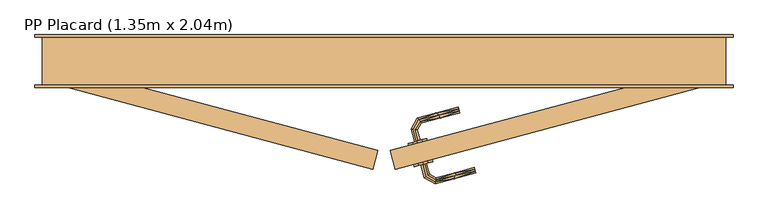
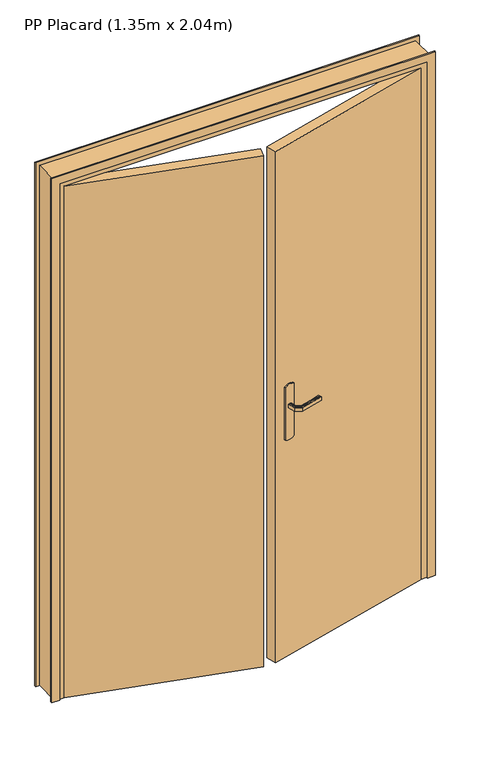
"""IFC4 building model written with IfcOpenShell, lengths in millimetres: door geometry, PP Placard (1.35m x 2.04m)."""

import ifcopenshell
import ifcopenshell.guid

model = None  # the IFC model being written
_history = None  # IfcOwnerHistory: only IFC2X3 demands one
_inside = {}  # id of a spatial element -> (the spatial element, [elements in it])
_under = {}  # id of a project, library or spatial element -> (it, [spatial elements below it])
_declared = {}  # id of a project -> (the project, [libraries it declares])
_typed = {}  # id of a type object -> (the type object, [elements of that type])
_made_of = {}  # id of a material, layer set ... -> (it, [elements and type objects made of it])


def new_model(schema):
    """Start an empty IFC model of exactly this schema.

    Asked for "IFC4X3", IfcOpenShell would pick the latest addendum, in which some entities
    have other attributes; the version numbers below select the first issue.
    IFC2X3 requires an IfcOwnerHistory on every rooted entity: one is made here for all.
    """
    global model, _history
    if schema == "IFC4X3":
        model = ifcopenshell.file(schema_version=(4, 3, 0, 0))
    else:
        model = ifcopenshell.file(schema=schema)
    _inside.clear()
    _under.clear()
    _declared.clear()
    _typed.clear()
    _made_of.clear()
    _history = None
    if model.schema == "IFC2X3":
        org = make("IfcOrganization", Name="unknown")
        user = make(
            "IfcPersonAndOrganization",
            ThePerson=make("IfcPerson", FamilyName="unknown"),
            TheOrganization=org,
        )
        app = make(
            "IfcApplication",
            ApplicationDeveloper=org,
            Version="unknown",
            ApplicationFullName="unknown",
            ApplicationIdentifier="unknown",
        )
        _history = make(
            "IfcOwnerHistory",
            OwningUser=user,
            OwningApplication=app,
            ChangeAction="ADDED",
            CreationDate=0,
        )
    return model


def make(cls, **values):
    """One entity of the class cls with the attributes given. An attribute that is None is left unset."""
    return model.create_entity(
        cls, **{name: value for name, value in values.items() if value is not None}
    )


def rooted(cls, **values):
    """An entity with a GlobalId (a new one), such as an element, a storey or a relation."""
    return make(cls, GlobalId=ifcopenshell.guid.new(), OwnerHistory=_history, **values)


def si_unit(unit_type, name, prefix=None):
    """IfcSIUnit, for example si_unit("LENGTHUNIT", "METRE", prefix="MILLI")."""
    return make("IfcSIUnit", UnitType=unit_type, Prefix=prefix, Name=name)


def assignment(units):
    """IfcUnitAssignment: the units of a project."""
    return None if units is None else make("IfcUnitAssignment", Units=units)


def point(xyz):
    """IfcCartesianPoint."""
    return None if xyz is None else make("IfcCartesianPoint", Coordinates=xyz)


def direction(xyz):
    """IfcDirection."""
    return None if xyz is None else make("IfcDirection", DirectionRatios=xyz)


def frame(location, z_axis=None, x_axis=None):
    """IfcAxis2Placement3D, a coordinate frame: its origin and axes. An axis left out is left unset."""
    return make(
        "IfcAxis2Placement3D",
        Location=point(location),
        Axis=direction(z_axis),
        RefDirection=direction(x_axis),
    )


def origin():
    """The frame at (0, 0, 0) with its axes left unset."""
    return frame((0.0, 0.0, 0.0))


def origin_with_axes():
    """The frame at (0, 0, 0) with the z axis (0, 0, 1) and the x axis (1, 0, 0) written out."""
    return frame((0.0, 0.0, 0.0), z_axis=(0.0, 0.0, 1.0), x_axis=(1.0, 0.0, 0.0))


def place(relative_to, where):
    """IfcLocalPlacement: puts the frame where relative to a parent placement (None: the world)."""
    return make(
        "IfcLocalPlacement", PlacementRelTo=relative_to, RelativePlacement=where
    )


def context(
    kind, dimensions, precision=None, world=None, true_north=None, identifier=None
):
    """IfcGeometricRepresentationContext, for example the 3D "Model" context."""
    return make(
        "IfcGeometricRepresentationContext",
        ContextIdentifier=identifier,
        ContextType=kind,
        CoordinateSpaceDimension=dimensions,
        Precision=precision,
        WorldCoordinateSystem=world,
        TrueNorth=true_north,
    )


def project(units=None, contexts=None):
    """IfcProject with its units and contexts."""
    return rooted(
        "IfcProject",
        Name="project",
        RepresentationContexts=contexts,
        UnitsInContext=assignment(units),
    )


def spatial(cls, under=None, at=None, **own):
    """A site, building, storey or space (cls), placed at a placement, below another one or the project."""
    s = rooted(cls, ObjectPlacement=at, **own)
    if under is not None:
        _under.setdefault(under.id(), (under, []))[1].append(s)
    return s


def polyline(points):
    """IfcPolyline through the points."""
    return make("IfcPolyline", Points=[point(p) for p in points])


def outline(outer, holes=None, kind="AREA"):
    """IfcArbitraryClosedProfileDef: a profile drawn as a closed curve; with holes, ...WithVoids."""
    if holes is None:
        return make("IfcArbitraryClosedProfileDef", ProfileType=kind, OuterCurve=outer)
    return make(
        "IfcArbitraryProfileDefWithVoids",
        ProfileType=kind,
        OuterCurve=outer,
        InnerCurves=holes,
    )


def extrude(swept, where, along, depth):
    """IfcExtrudedAreaSolid: the profile swept, set in the frame where, extruded along a direction by depth."""
    return make(
        "IfcExtrudedAreaSolid",
        SweptArea=swept,
        Position=where,
        ExtrudedDirection=direction(along),
        Depth=depth,
    )


def faces_of(points, faces, orient=None, outer=None):
    """IfcFace entities. A face is a list of loops; a loop is a list of indices into points, from 0.

    orient and outer hold one flag for each loop. By default every Orientation is true, the
    first loop of a face is its IfcFaceOuterBound and the others are IfcFaceBound.
    """
    made = []
    for i, loops in enumerate(faces):
        bounds = []
        for j, loop in enumerate(loops):
            is_outer = j == 0 if outer is None else outer[i][j]
            bounds.append(
                make(
                    "IfcFaceOuterBound" if is_outer else "IfcFaceBound",
                    Bound=make("IfcPolyLoop", Polygon=[points[k] for k in loop]),
                    Orientation=True if orient is None else orient[i][j],
                )
            )
        made.append(make("IfcFace", Bounds=bounds))
    return made


def faceted_brep(points, faces, orient=None, outer=None, voids=None):
    """IfcFacetedBrep: a solid bounded by flat faces; with voids (closed shells), ...WithVoids."""
    shared = [point(p) for p in points]
    hull = make("IfcClosedShell", CfsFaces=faces_of(shared, faces, orient, outer))
    if voids is None:
        return make("IfcFacetedBrep", Outer=hull)
    return make(
        "IfcFacetedBrepWithVoids",
        Outer=hull,
        Voids=[
            make(cls, CfsFaces=faces_of(shared, fs, o, b)) for cls, fs, o, b in voids
        ],
    )


def shape(context_of_items, identifier, shape_type, items):
    """IfcShapeRepresentation: the items that make up one representation, for example the "Body"."""
    return make(
        "IfcShapeRepresentation",
        ContextOfItems=context_of_items,
        RepresentationIdentifier=identifier,
        RepresentationType=shape_type,
        Items=items,
    )


def source(mapping_origin, context_of_items, identifier, shape_type, items):
    """IfcRepresentationMap: a shape defined once, which mapped items show again and again."""
    return make(
        "IfcRepresentationMap",
        MappingOrigin=mapping_origin,
        MappedRepresentation=shape(context_of_items, identifier, shape_type, items),
    )


def transform(
    local_origin,
    x_axis=None,
    y_axis=None,
    z_axis=None,
    scale=None,
    scale2=None,
    scale3=None,
    uniform=True,
):
    """IfcCartesianTransformationOperator3D, or its non-uniform kind. x_axis, y_axis, z_axis: its Axis1, 2, 3."""
    if uniform:
        return make(
            "IfcCartesianTransformationOperator3D",
            Axis1=direction(x_axis),
            Axis2=direction(y_axis),
            LocalOrigin=point(local_origin),
            Scale=scale,
            Axis3=direction(z_axis),
        )
    return make(
        "IfcCartesianTransformationOperator3DnonUniform",
        Axis1=direction(x_axis),
        Axis2=direction(y_axis),
        LocalOrigin=point(local_origin),
        Scale=scale,
        Axis3=direction(z_axis),
        Scale2=scale2,
        Scale3=scale3,
    )


def mapped(mapping_source, mapping_target):
    """IfcMappedItem: shows the shape of a source again, moved by a transform."""
    return make(
        "IfcMappedItem", MappingSource=mapping_source, MappingTarget=mapping_target
    )


def made_of(thing, what):
    """Note that an element or type object is made of a material, layer set ...; save() writes the relation."""
    if what is not None:
        _made_of.setdefault(what.id(), (what, []))[1].append(thing)
    return thing


def element(
    cls,
    number,
    at=None,
    inside=None,
    cuts=None,
    type_object=None,
    material=None,
    context=None,
    identifier="Body",
    shape_type=None,
    held_by="IfcProductDefinitionShape",
    body=None,
    shapes=None,
    **own,
):
    """One element of the class cls, such as IfcWall. Its Tag is "e" and its number.

    at: its placement. inside: the storey or other place that contains it. cuts: it is an
    opening in that element (IfcRelVoidsElement). A single representation is given by context,
    identifier, shape_type and body (its items); several are given by shapes. held_by: the class
    of the entity that holds the representations. save() writes the other relations.
    """
    e = rooted(cls, Tag="e%d" % number, ObjectPlacement=at, **own)
    if body is not None:
        shapes = [shape(context, identifier, shape_type, body)]
    if shapes is not None:
        e.Representation = make(held_by, Representations=shapes)
    if inside is not None:
        _inside.setdefault(inside.id(), (inside, []))[1].append(e)
    if cuts is not None:
        rooted(
            "IfcRelVoidsElement", RelatingBuildingElement=cuts, RelatedOpeningElement=e
        )
    if type_object is not None:
        _typed.setdefault(type_object.id(), (type_object, []))[1].append(e)
    return made_of(e, material)


def aggregate(whole, parts):
    """IfcRelAggregates: a whole, such as a stair, and the parts it consists of."""
    return rooted("IfcRelAggregates", RelatingObject=whole, RelatedObjects=parts)


def save(model, path):
    """Write the relations noted so far, then the file.

    IfcRelAggregates (storeys below a building ...), IfcRelContainedInSpatialStructure (elements
    in a storey), IfcRelDefinesByType, IfcRelAssociatesMaterial and IfcRelDeclares: one each for
    every whole, place, type object, material and project.
    """
    for whole, parts in _under.values():
        aggregate(whole, parts)
    for where, things in _inside.values():
        rooted(
            "IfcRelContainedInSpatialStructure",
            RelatedElements=things,
            RelatingStructure=where,
        )
    for kind, things in _typed.values():
        rooted("IfcRelDefinesByType", RelatedObjects=things, RelatingType=kind)
    for what, things in _made_of.values():
        rooted("IfcRelAssociatesMaterial", RelatedObjects=things, RelatingMaterial=what)
    for by, libraries in _declared.values():
        rooted("IfcRelDeclares", RelatingContext=by, RelatedDefinitions=libraries)
    model.write(path)


def pp_placard_1_35m_x_2_04m_32e57c04(model_context):
    return source(origin(), model_context, "Body", "SolidModel", [
        extrude(outline(polyline([(0.0, -15.0), (0.0, 15.0), (2060.0, 15.0), (2060.0, 1405.0), (0.0, 1405.0), (0.0, 1435.0), (2090.0, 1435.0), (2090.0, -15.0), (0.0, -15.0)])), frame((0.0, 100.0, 0.0), z_axis=(0.0, 1.0, 0.0), x_axis=(0.0, 0.0, 1.0)), (0.0, 0.0, 1.0), 5.0),
        extrude(outline(polyline([(697.3526945, -136.0658224), (686.9999327, -174.7028554), (35.0, 0.0), (45.3527618, 38.6370331), (697.3526945, -136.0658224)])), origin_with_axes(), (0.0, 0.0, 1.0), 2040.0),
        extrude(outline(polyline([(0.0, 0.0), (3.065895, 9.9818658), (212.1249722, 29.838911), (217.015302, 20.6127508), (219.3510918, 10.4352539), (218.9731616, 0.0), (215.9072666, -9.9818657), (6.8481894, -29.8389108), (1.9578596, -20.6127507), (-0.3779302, -10.4352539), (0.0, 0.0)])), frame((790.602855, -117.8571878, 866.0039831), z_axis=(-0.25881904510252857, 0.9659258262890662, 0.0), x_axis=(-0.09133539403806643, -0.024473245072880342, 0.9955194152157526)), (0.0, 0.0, 1.0), 5.0),
        faceted_brep([(790.2934238, -164.5275277, 1007.7804408), (794.2060003, -163.479156, 1007.7804408), (798.045267, -162.4504276, 1007.0), (798.045267, -162.4504276, 993.0), (794.2060003, -163.479156, 992.2195592), (790.2934238, -164.5275277, 992.2195592), (786.4541571, -165.5562561, 993.0), (786.4541571, -165.5562561, 1007.0), (793.6107498, -192.2650235, 1007.0), (797.0239032, -189.6460188, 1007.7804408), (816.6796914, -200.9942934, 1007.7804408), (817.2519619, -196.6474671, 1007.7804408), (800.5022299, -186.9770048, 1007.7804408), (803.9153834, -184.3580001, 1007.0), (803.9153834, -184.3580001, 993.0), (800.5022299, -186.9770048, 992.2195592), (817.2519619, -196.6474671, 992.2195592), (816.6796914, -200.9942934, 992.2195592), (797.0239032, -189.6460188, 992.2195592), (793.6107498, -192.2650235, 993.0), (816.1181434, -205.2596733, 1007.0), (817.8135098, -192.3820871, 1007.0), (817.8135098, -192.3820871, 993.0), (816.1181434, -205.2596733, 993.0), (900.7732647, -182.576402, 993.0), (899.7445363, -178.7371353, 992.2195592), (898.6961646, -174.8245587, 992.2195592), (897.6674362, -170.985292, 993.0), (897.6674362, -170.985292, 1007.0), (898.6961646, -174.8245587, 1007.7804408), (899.7445363, -178.7371353, 1007.7804408), (900.7732647, -182.576402, 1007.0), (854.6880323, -194.9249028, 1007.0), (858.4982491, -187.6923012, 1007.8786868), (857.740473, -181.6836896, 1007.0), (857.740473, -181.6836896, 993.0), (858.498249, -187.6923013, 992.1213132), (854.6880352, -194.924902, 993.0)], [[[0, 1, 2, 3, 4, 5, 6, 7]], [[8, 9, 0, 7]], [[9, 10, 11, 12, 1, 0]], [[12, 13, 2, 1]], [[3, 2, 13, 14]], [[14, 15, 4, 3]], [[15, 16, 17, 18, 5, 4]], [[18, 19, 6, 5]], [[7, 6, 19, 8]], [[20, 10, 9, 8]], [[11, 21, 13, 12]], [[14, 13, 21, 22]], [[22, 16, 15, 14]], [[17, 23, 19, 18]], [[8, 19, 23, 20]], [[24, 25, 26, 27, 28, 29, 30, 31]], [[32, 30, 33]], [[31, 30, 32]], [[10, 20, 32]], [[33, 34, 11]], [[21, 11, 34]], [[34, 29, 28]], [[30, 29, 33]], [[29, 34, 33]], [[10, 32, 33]], [[10, 33, 11]], [[22, 21, 34, 28, 27, 35]], [[35, 26, 36]], [[37, 36, 25]], [[22, 35, 16]], [[35, 27, 26]], [[24, 37, 25]], [[23, 17, 37]], [[37, 17, 36]], [[17, 16, 36]], [[16, 35, 36]], [[25, 36, 26]], [[20, 23, 37, 24, 31, 32]]]),
        faceted_brep([(0.0, 0.0, 0.0), (0.0, 100.0, 0.0), (50.0, 100.0, 0.0), (50.0, 40.0, 0.0), (35.0, 40.0, 0.0), (35.0, 0.0, 0.0), (0.0, 0.0, 2075.0), (0.0, 100.0, 2075.0), (1420.0, 100.0, 2075.0), (1420.0, 100.0, 0.0), (1370.0, 100.0, 0.0), (1370.0, 100.0, 2025.0), (50.0, 100.0, 2025.0), (50.0, 40.0, 2025.0), (1370.0, 40.0, 2025.0), (1370.0, 40.0, 0.0), (1385.0, 40.0, 0.0), (1385.0, 40.0, 2040.0), (35.0, 40.0, 2040.0), (35.0, 0.0, 2040.0), (1385.0, 0.0, 2040.0), (1385.0, 0.0, 0.0), (1420.0, 0.0, 0.0), (1420.0, 0.0, 2075.0)], [[[0, 1, 2, 3, 4, 5]], [[1, 0, 6, 7]], [[2, 1, 7, 8, 9, 10, 11, 12]], [[3, 2, 12, 13]], [[4, 3, 13, 14, 15, 16, 17, 18]], [[5, 4, 18, 19]], [[0, 5, 19, 20, 21, 22, 23, 6]], [[8, 23, 22, 9]], [[22, 21, 16, 15, 10, 9]], [[14, 11, 10, 15]], [[20, 17, 16, 21]], [[7, 6, 23, 8]], [[13, 12, 11, 14]], [[19, 18, 17, 20]]]),
        extrude(outline(polyline([(0.0, 0.0), (3.0658951, 9.9818657), (212.1249723, 29.8389108), (217.015302, 20.6127508), (219.3510918, 10.4352539), (218.9731616, 0.0), (215.9072666, -9.9818658), (6.8481894, -29.838911), (1.9578596, -20.6127508), (-0.3779302, -10.4352539), (0.0, 0.0)])), frame((802.2497121, -161.3238499, 866.0039831), z_axis=(-0.2588190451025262, 0.965925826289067, 0.0), x_axis=(-0.09133539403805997, -0.024473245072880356, 0.9955194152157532)), (0.0, 0.0, 1.0), 5.0),
        faceted_brep([(777.3524715, -116.2312364, 1007.7804408), (773.5132048, -117.2599648, 1007.0), (773.5132048, -117.2599648, 993.0), (777.3524715, -116.2312364, 992.2195592), (781.2650481, -115.1828647, 992.2195592), (785.1043148, -114.1541363, 993.0), (785.1043148, -114.1541363, 1007.0), (781.2650481, -115.1828647, 1007.7804408), (779.2847156, -92.4350965, 993.0), (779.2847156, -92.4350965, 1007.0), (775.0193357, -91.8735486, 1007.7804408), (784.7870312, -74.9554037, 1007.7804408), (782.1180172, -71.4770769, 1007.7804408), (770.6725093, -91.3012781, 1007.7804408), (766.4071294, -90.7397302, 1007.0), (766.4071294, -90.7397302, 993.0), (770.6725093, -91.3012781, 992.2195592), (782.1180172, -71.4770769, 992.2195592), (784.7870312, -74.9554037, 992.2195592), (775.0193357, -91.8735486, 992.2195592), (787.4060359, -78.3685571, 993.0), (787.4060359, -78.3685571, 1007.0), (779.4990125, -68.0639235, 1007.0), (779.4990125, -68.0639235, 993.0), (867.1533573, -57.0003267, 993.0), (866.1246289, -53.16106, 992.2195592), (865.0762572, -49.2484835, 992.2195592), (864.0475288, -45.4092168, 993.0), (864.0475288, -45.4092168, 1007.0), (865.0762572, -49.2484835, 1007.7804408), (866.1246289, -53.16106, 1007.7804408), (867.1533573, -57.0003267, 1007.0), (827.2796851, -67.684445, 993.0), (827.2796966, -67.6844419, 1007.0), (824.9316442, -62.1019436, 1007.8786868), (818.0689013, -57.7291529, 1007.0), (818.0688999, -57.7291533, 993.0), (824.9316444, -62.1019436, 992.1213132)], [[[0, 1, 2, 3, 4, 5, 6, 7]], [[6, 5, 8, 9]], [[9, 10, 7, 6]], [[10, 11, 12, 13, 0, 7]], [[13, 14, 1, 0]], [[2, 1, 14, 15]], [[15, 16, 3, 2]], [[16, 17, 18, 19, 4, 3]], [[19, 8, 5, 4]], [[9, 8, 20, 21]], [[21, 11, 10, 9]], [[12, 22, 14, 13]], [[15, 14, 22, 23]], [[23, 17, 16, 15]], [[18, 20, 8, 19]], [[24, 25, 26, 27, 28, 29, 30, 31]], [[21, 20, 32, 24, 31, 33]], [[33, 30, 34]], [[35, 34, 29]], [[21, 33, 11]], [[33, 31, 30]], [[28, 35, 29]], [[22, 12, 35]], [[35, 12, 34]], [[12, 11, 34]], [[11, 33, 34]], [[29, 34, 30]], [[22, 35, 28, 27, 36, 23]], [[36, 26, 37]], [[27, 26, 36]], [[17, 23, 36]], [[37, 32, 18]], [[20, 18, 32]], [[32, 25, 24]], [[26, 25, 37]], [[25, 32, 37]], [[17, 36, 37]], [[17, 37, 18]]]),
        extrude(outline(polyline([(0.0, -15.0), (0.0, 15.0), (2060.0, 15.0), (2060.0, 1405.0), (0.0, 1405.0), (0.0, 1435.0), (2090.0, 1435.0), (2090.0, -15.0), (0.0, -15.0)])), frame((0.0, -5.0, 0.0), z_axis=(0.0, 1.0, 0.0), x_axis=(0.0, 0.0, 1.0)), (0.0, 0.0, 1.0), 5.0),
        extrude(outline(polyline([(722.6473055, -136.0658224), (1374.6472382, 38.6370331), (1385.0, 0.0), (733.0000673, -174.7028554), (722.6473055, -136.0658224)])), origin_with_axes(), (0.0, 0.0, 1.0), 2040.0),
    ])


if __name__ == "__main__":
    model = new_model("IFC4")
    model_context = context("Model", 3, world=origin())
    ifc_project = project(units=[si_unit("LENGTHUNIT", "METRE", prefix="MILLI")], contexts=[model_context])
    site = spatial("IfcSite", under=ifc_project)
    building = spatial("IfcBuilding", under=site)
    placement = place(None, origin())
    pp_placard_1_35m_x_2_04m_shape = pp_placard_1_35m_x_2_04m_32e57c04(model_context)
    element("IfcDoor", 1, ObjectType="PP Placard (1.35m x 2.04m)", at=placement, inside=building, context=model_context, shape_type="MappedRepresentation", body=[
        mapped(pp_placard_1_35m_x_2_04m_shape, transform((0.0, 0.0, 0.0), x_axis=(1.0, 0.0, 0.0), y_axis=(0.0, 1.0, 0.0), z_axis=(0.0, 0.0, 1.0))),
    ])
    save(model, "model.ifc")
